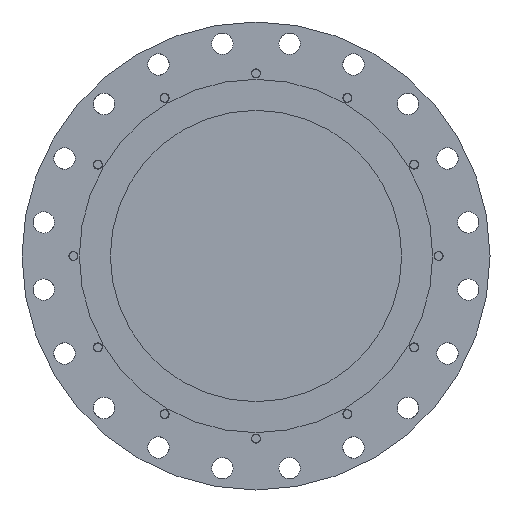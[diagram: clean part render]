
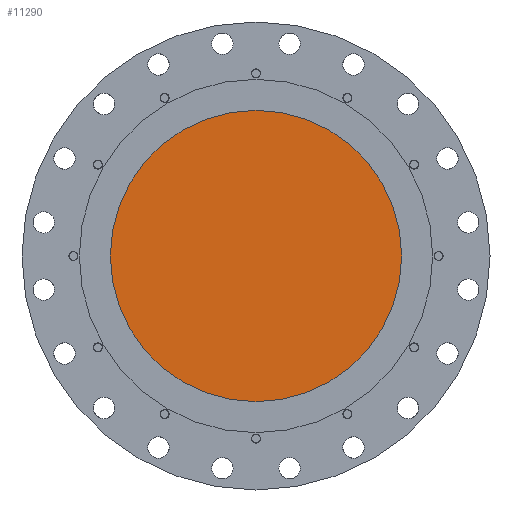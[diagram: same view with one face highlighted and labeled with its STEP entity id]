
A CAD part, left-side view. The second image highlights one B-rep face of the part: STEP entity #11290.
In plain terms, the highlighted planar face has unit normal (-1, 0, 0).
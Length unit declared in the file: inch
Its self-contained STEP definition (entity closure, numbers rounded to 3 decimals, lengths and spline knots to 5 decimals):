
#532 = VERTEX_POINT ( 'NONE', #4302 ) ;
#582 = EDGE_LOOP ( 'NONE', ( #5288, #8676 ) ) ;
#1281 = AXIS2_PLACEMENT_3D ( 'NONE', #11236, #10415, #11572 ) ;
#1404 = AXIS2_PLACEMENT_3D ( 'NONE', #3196, #10383, #4320 ) ;
#1707 = EDGE_CURVE ( 'Defeatured_0_115+Defeatured_0_116+Defeatured_0_116+Defeatured_0_116', #532, #9015, #5868, .T. ) ;
#3196 = CARTESIAN_POINT ( 'NONE',  ( 0.19, 0., 0. ) ) ;
#4302 = CARTESIAN_POINT ( 'NONE',  ( 0.19, 0., -7.625 ) ) ;
#4320 = DIRECTION ( 'NONE',  ( 0., 0., 1. ) ) ;
#4625 = CARTESIAN_POINT ( 'NONE',  ( 0.19, 0., 7.625 ) ) ;
#5288 = ORIENTED_EDGE ( 'NONE', *, *, #12593, .T. ) ;
#5731 = AXIS2_PLACEMENT_3D ( 'NONE', #9157, #12287, #12329 ) ;
#5774 = FACE_OUTER_BOUND ( 'NONE', #582, .T. ) ;
#5868 = CIRCLE ( 'NONE', #1281, 7.625 ) ;
#7120 = PLANE ( 'NONE',  #5731 ) ;
#8676 = ORIENTED_EDGE ( 'NONE', *, *, #1707, .T. ) ;
#9015 = VERTEX_POINT ( 'NONE', #4625 ) ;
#9157 = CARTESIAN_POINT ( 'NONE',  ( 0.19, -6.60344, -3.8125 ) ) ;
#10383 = DIRECTION ( 'NONE',  ( -1., 0., 0. ) ) ;
#10415 = DIRECTION ( 'NONE',  ( -1., 0., 0. ) ) ;
#10837 = CIRCLE ( 'NONE', #1404, 7.625 ) ;
#11236 = CARTESIAN_POINT ( 'NONE',  ( 0.19, 0., 0. ) ) ;
#11290 = ADVANCED_FACE ( 'Defeatured_0_115', ( #5774 ), #7120, .T. ) ;
#11572 = DIRECTION ( 'NONE',  ( 0., 0., 1. ) ) ;
#12287 = DIRECTION ( 'NONE',  ( -1., 0., 0. ) ) ;
#12329 = DIRECTION ( 'NONE',  ( 0., -0.5, 0.866 ) ) ;
#12593 = EDGE_CURVE ( 'Defeatured_0_115+Defeatured_0_116+Defeatured_0_116+Defeatured_0_116', #9015, #532, #10837, .T. ) ;
